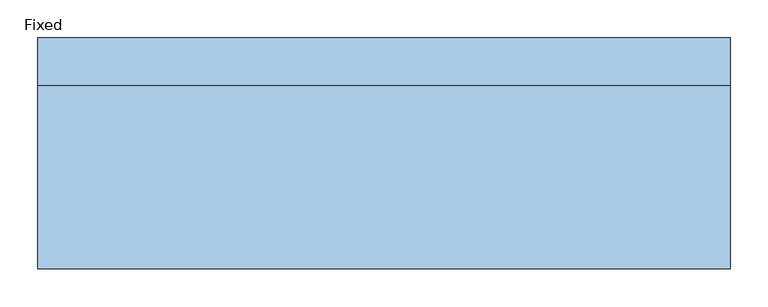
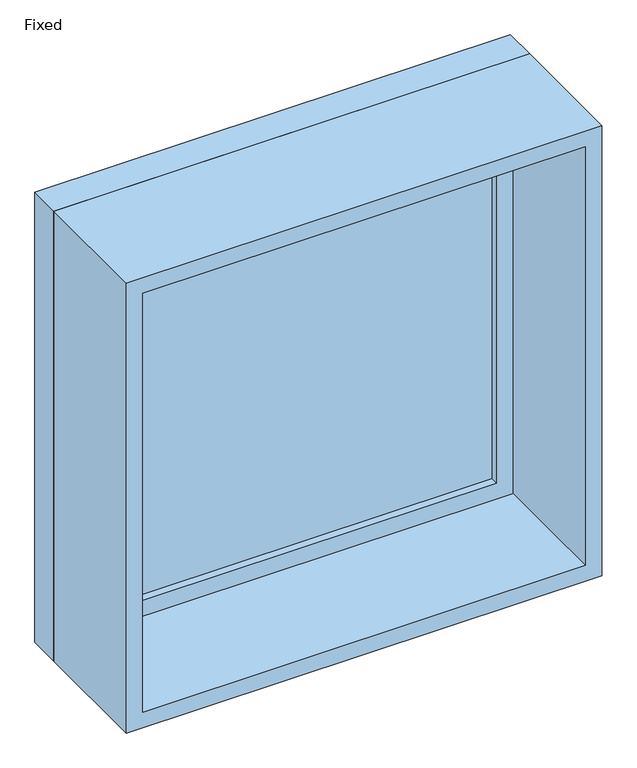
"""IFC4 building model written with IfcOpenShell, lengths in millimetres: window geometry."""

from ifc_helpers import new_model, si_unit, frame, origin, place, context, project, spatial, polyline, outline, extrude, source, transform, mapped, element, save


def fixed_909a47ac(model_context):
    return source(origin(), model_context, "Body", "SweptSolid", [
        extrude(outline(polyline([(355.6, 104.775), (-431.8, 104.775), (-431.8, 117.475), (355.6, 117.475), (355.6, 104.775)])), frame((0.0, 0.0, 977.9), z_axis=(0.0, 0.0, 1.0), x_axis=(1.0, 0.0, 0.0)), (0.0, 0.0, 1.0), 787.4),
        extrude(outline(polyline([(1809.75, -476.25), (933.45, -476.25), (933.45, 400.05), (1809.75, 400.05), (1809.75, -476.25)]), holes=[polyline([(1765.3, -431.8), (1765.3, 355.6), (977.9, 355.6), (977.9, -431.8), (1765.3, -431.8)])]), frame((0.0, 88.9, 0.0), z_axis=(0.0, 1.0, 0.0), x_axis=(0.0, 0.0, 1.0)), (0.0, 0.0, 1.0), 44.45),
        extrude(outline(polyline([(1828.8, -495.3), (914.4, -495.3), (914.4, 419.1), (1828.8, 419.1), (1828.8, -495.3)]), holes=[polyline([(1797.05, -463.55), (1797.05, 387.35), (946.15, 387.35), (946.15, -463.55), (1797.05, -463.55)])]), frame((0.0, -152.4, 0.0), z_axis=(0.0, 1.0, 0.0), x_axis=(0.0, 0.0, 1.0)), (0.0, 0.0, 1.0), 241.3),
        extrude(outline(polyline([(1828.8, 419.1), (1828.8, -495.3), (914.4, -495.3), (914.4, 419.1), (1828.8, 419.1)]), holes=[polyline([(1809.75, 400.05), (933.45, 400.05), (933.45, -476.25), (1809.75, -476.25), (1809.75, 400.05)])]), frame((0.0, 88.9, 0.0), z_axis=(0.0, 1.0, 0.0), x_axis=(0.0, 0.0, 1.0)), (0.0, 0.0, 1.0), 63.5),
    ])


if __name__ == "__main__":
    model = new_model("IFC4")
    model_context = context("Model", 3, world=origin())
    ifc_project = project(units=[si_unit("LENGTHUNIT", "METRE", prefix="MILLI")], contexts=[model_context])
    site = spatial("IfcSite", under=ifc_project)
    building = spatial("IfcBuilding", under=site)
    placement = place(None, origin())
    fixed_shape = fixed_909a47ac(model_context)
    element("IfcWindow", 1, ObjectType="Fixed : 36 \" x 36\"", at=placement, inside=building, context=model_context, shape_type="MappedRepresentation", body=[
        mapped(fixed_shape, transform((0.0, 0.0, 0.0), x_axis=(1.0, 0.0, 0.0), y_axis=(0.0, 1.0, 0.0), z_axis=(0.0, 0.0, 1.0))),
    ])
    save(model, "model.ifc")
